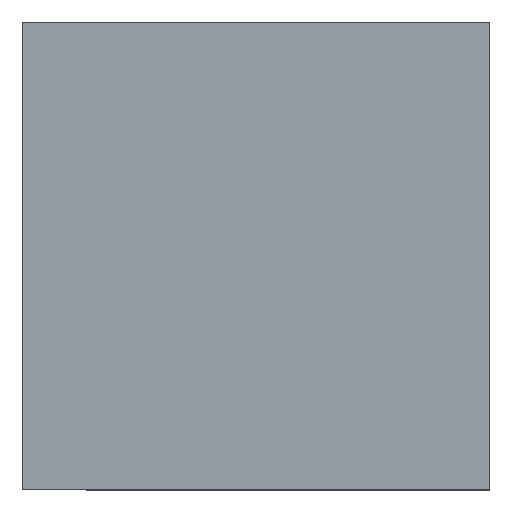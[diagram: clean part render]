
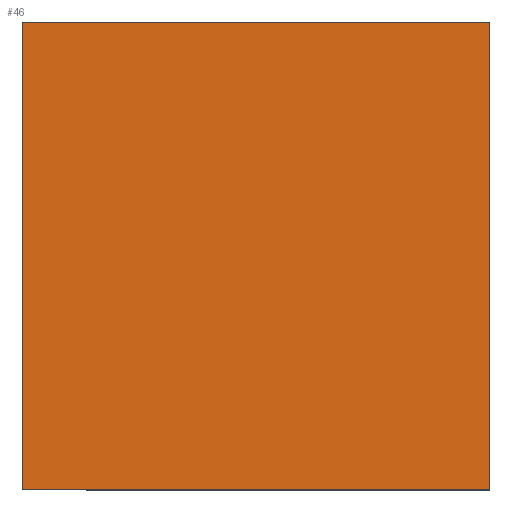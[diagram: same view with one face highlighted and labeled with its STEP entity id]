
A CAD part, top view. The second image highlights one B-rep face of the part: STEP entity #46.
In plain terms, the highlighted planar face has unit normal (0, 0, 1).
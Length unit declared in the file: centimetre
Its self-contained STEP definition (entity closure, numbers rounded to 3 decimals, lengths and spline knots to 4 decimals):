
#14 = ORIENTED_EDGE ( 'NONE', *, *, #301, .T. ) ;
#46 = ADVANCED_FACE ( 'NONE', ( #1372 ), #1101, .T. ) ;
#203 = DIRECTION ( 'NONE',  ( 1., 0., 0. ) ) ;
#246 = AXIS2_PLACEMENT_3D ( 'NONE', #951, #1218, #657 ) ;
#258 = ORIENTED_EDGE ( 'NONE', *, *, #1589, .T. ) ;
#301 = EDGE_CURVE ( 'NONE', #1442, #810, #993, .T. ) ;
#303 = VECTOR ( 'NONE', #1170, 100. ) ;
#392 = CARTESIAN_POINT ( 'NONE',  ( 0., 1000., 1000. ) ) ;
#487 = LINE ( 'NONE', #494, #303 ) ;
#494 = CARTESIAN_POINT ( 'NONE',  ( 1000., 1000., 1000. ) ) ;
#565 = CARTESIAN_POINT ( 'NONE',  ( 0., 0., 1000. ) ) ;
#633 = CARTESIAN_POINT ( 'NONE',  ( 0., 1000., 1000. ) ) ;
#657 = DIRECTION ( 'NONE',  ( 1., 0., 0. ) ) ;
#703 = VECTOR ( 'NONE', #926, 100. ) ;
#773 = LINE ( 'NONE', #392, #703 ) ;
#796 = EDGE_CURVE ( 'NONE', #810, #1152, #487, .T. ) ;
#810 = VERTEX_POINT ( 'NONE', #1415 ) ;
#834 = ORIENTED_EDGE ( 'NONE', *, *, #796, .T. ) ;
#922 = LINE ( 'NONE', #633, #1122 ) ;
#926 = DIRECTION ( 'NONE',  ( 0., -1., 0. ) ) ;
#931 = VERTEX_POINT ( 'NONE', #1510 ) ;
#951 = CARTESIAN_POINT ( 'NONE',  ( 0., 0., 1000. ) ) ;
#993 = LINE ( 'NONE', #1401, #1422 ) ;
#996 = ORIENTED_EDGE ( 'NONE', *, *, #1277, .T. ) ;
#1001 = CARTESIAN_POINT ( 'NONE',  ( 1000., 1000., 1000. ) ) ;
#1101 = PLANE ( 'NONE',  #246 ) ;
#1122 = VECTOR ( 'NONE', #1169, 100. ) ;
#1152 = VERTEX_POINT ( 'NONE', #1001 ) ;
#1169 = DIRECTION ( 'NONE',  ( -1., 0., 0. ) ) ;
#1170 = DIRECTION ( 'NONE',  ( 0., 1., 0. ) ) ;
#1218 = DIRECTION ( 'NONE',  ( 0., 0., 1. ) ) ;
#1277 = EDGE_CURVE ( 'NONE', #931, #1442, #773, .T. ) ;
#1372 = FACE_OUTER_BOUND ( 'NONE', #1631, .T. ) ;
#1401 = CARTESIAN_POINT ( 'NONE',  ( 0., 0., 1000. ) ) ;
#1415 = CARTESIAN_POINT ( 'NONE',  ( 1000., 0., 1000. ) ) ;
#1422 = VECTOR ( 'NONE', #203, 100. ) ;
#1442 = VERTEX_POINT ( 'NONE', #565 ) ;
#1510 = CARTESIAN_POINT ( 'NONE',  ( 0., 1000., 1000. ) ) ;
#1589 = EDGE_CURVE ( 'NONE', #1152, #931, #922, .T. ) ;
#1631 = EDGE_LOOP ( 'NONE', ( #996, #14, #834, #258 ) ) ;
